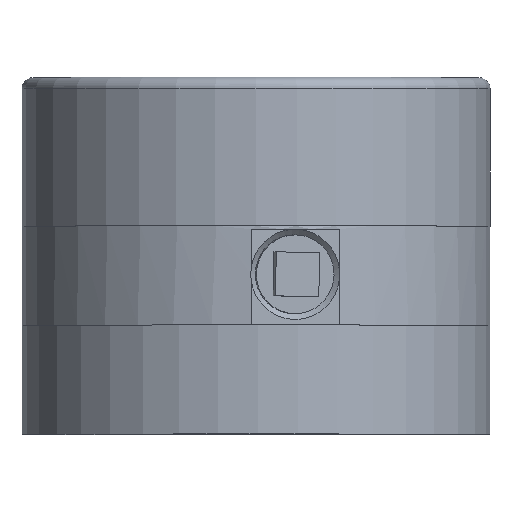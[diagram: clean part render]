
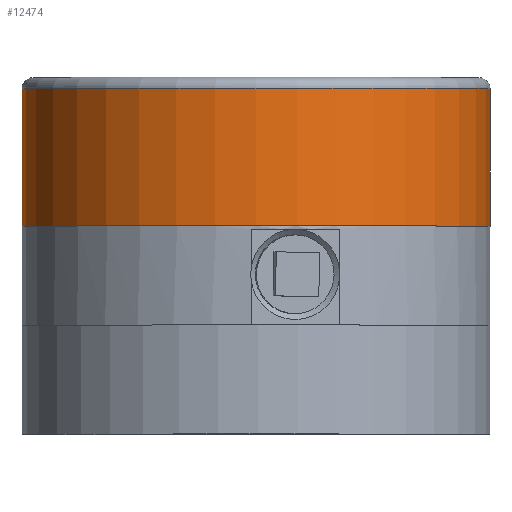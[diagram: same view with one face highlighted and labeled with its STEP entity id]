
A CAD part, top view. The second image highlights one B-rep face of the part: STEP entity #12474.
In plain terms, the highlighted cylindrical face has radius 53.975 mm (diameter 107.95 mm), a full revolution.
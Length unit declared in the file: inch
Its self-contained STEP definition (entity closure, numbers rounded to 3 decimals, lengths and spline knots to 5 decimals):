
#378 = DIRECTION ( 'NONE',  ( 0., -1., 0. ) ) ;
#564 = ORIENTED_EDGE ( 'NONE', *, *, #3413, .T. ) ;
#1737 = FACE_OUTER_BOUND ( 'NONE', #2785, .T. ) ;
#2327 = CARTESIAN_POINT ( 'NONE',  ( 0., 1.25, 2.125 ) ) ;
#2599 = CARTESIAN_POINT ( 'NONE',  ( 0., 1.25, 0. ) ) ;
#2728 = CARTESIAN_POINT ( 'NONE',  ( 0., 0., 2.125 ) ) ;
#2785 = EDGE_LOOP ( 'NONE', ( #564 ) ) ;
#3413 = EDGE_CURVE ( 'NONE', #15284, #15284, #8233, .T. ) ;
#4753 = CARTESIAN_POINT ( 'NONE',  ( 0., 0., 0. ) ) ;
#5971 = DIRECTION ( 'NONE',  ( 0., 0., -1. ) ) ;
#7330 = CYLINDRICAL_SURFACE ( 'NONE', #9255, 2.125 ) ;
#7440 = AXIS2_PLACEMENT_3D ( 'NONE', #2599, #8176, #13777 ) ;
#8176 = DIRECTION ( 'NONE',  ( 0., -1., 0. ) ) ;
#8233 = CIRCLE ( 'NONE', #16157, 2.125 ) ;
#8499 = EDGE_CURVE ( 'NONE', #14886, #14886, #15354, .T. ) ;
#9255 = AXIS2_PLACEMENT_3D ( 'NONE', #12924, #378, #5971 ) ;
#10323 = DIRECTION ( 'NONE',  ( 0., 1., 0. ) ) ;
#10646 = ORIENTED_EDGE ( 'NONE', *, *, #8499, .T. ) ;
#12474 = ADVANCED_FACE ( 'NONE', ( #14298, #1737 ), #7330, .T. ) ;
#12924 = CARTESIAN_POINT ( 'NONE',  ( 0., 1.35, 0. ) ) ;
#13777 = DIRECTION ( 'NONE',  ( 0., 0., 1. ) ) ;
#14298 = FACE_OUTER_BOUND ( 'NONE', #16499, .T. ) ;
#14886 = VERTEX_POINT ( 'NONE', #2327 ) ;
#15284 = VERTEX_POINT ( 'NONE', #2728 ) ;
#15354 = CIRCLE ( 'NONE', #7440, 2.125 ) ;
#15934 = DIRECTION ( 'NONE',  ( 0., 0., 1. ) ) ;
#16157 = AXIS2_PLACEMENT_3D ( 'NONE', #4753, #10323, #15934 ) ;
#16499 = EDGE_LOOP ( 'NONE', ( #10646 ) ) ;
